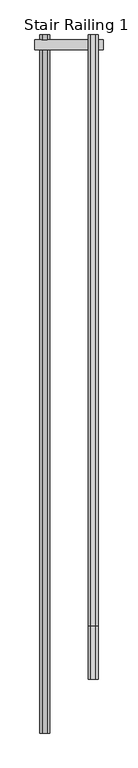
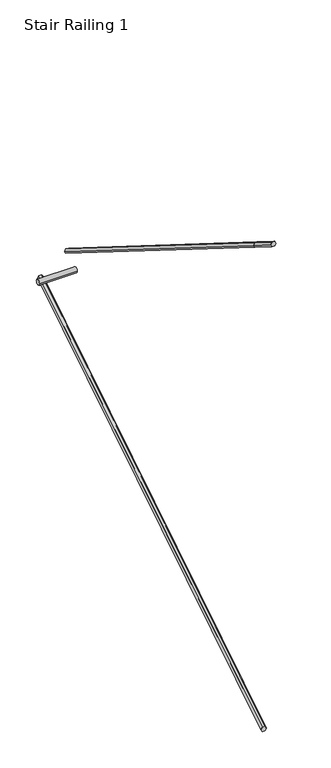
"""IFC4 building model written with IfcOpenShell, lengths in millimetres: railing geometry, Stair Railing 1."""

from ifc_helpers import new_model, si_unit, frame, origin, place, context, project, spatial, circle_curve, faceted_brep, source, transform, mapped, element, save
from ifc_brep_helpers import plane_surface, cylinder_surface, advanced_brep


def stair_railing_1_d4a7e100(model_context):
    return source(origin(), model_context, "Body", "SolidModel", [
        faceted_brep([(-1415.3134126, 56357.2066802, 9028.2888889), (-1428.0134126, 56357.2066802, 9006.2918436), (-1453.4134126, 56357.2066802, 9006.2918436), (-1466.1134126, 56357.2066802, 9028.2888889), (-1453.4134126, 56357.2066802, 9050.2859341), (-1428.0134126, 56357.2066802, 9050.2859341), (-1415.3134126, 52725.0066802, 6753.5777778), (-1428.0134126, 52725.0066802, 6775.574823), (-1453.4134126, 52725.0066802, 6775.574823), (-1466.1134126, 52725.0066802, 6753.5777778), (-1453.4134126, 52725.0066802, 6731.5807325), (-1428.0134126, 52725.0066802, 6731.5807325)], [[[0, 1, 2, 3, 4, 5]], [[6, 7, 8, 9, 10, 11]], [[1, 0, 6, 11]], [[2, 1, 11, 10]], [[3, 2, 10, 9]], [[4, 3, 9, 8]], [[5, 4, 8, 7]], [[0, 5, 7, 6]]]),
        advanced_brep(
        [(-1136.9891104, 56281.0066802, 9028.2888889), (-1136.9891104, 56331.8066802, 9028.2888889), (-1491.5134126, 56281.0066802, 9028.2888889), (-1491.5134126, 56331.8066802, 9028.2888889)],
        [
            (0, 1, circle_curve(frame((-1136.9891104, 56306.4066802, 9028.2888889), z_axis=(1.0, 0.0, 0.0), x_axis=(0.0, -1.0, 0.0)), 25.4)),
            (1, 0, circle_curve(frame((-1136.9891104, 56306.4066802, 9028.2888889), z_axis=(1.0, 0.0, 0.0), x_axis=(0.0, -1.0, 0.0)), 25.4)),
            (2, 3, circle_curve(frame((-1491.5134126, 56306.4066802, 9028.2888889), z_axis=(-1.0, 0.0, 0.0), x_axis=(0.0, -1.0, 0.0)), 25.4)),
            (3, 2, circle_curve(frame((-1491.5134126, 56306.4066802, 9028.2888889), z_axis=(-1.0, 0.0, 0.0), x_axis=(0.0, -1.0, 0.0)), 25.4)),
            (0, 2),
            (3, 1),
        ],
        [
            plane_surface(frame((-1136.9891104, 56281.0066802, 9002.8888889), z_axis=(1.0, 0.0, 0.0), x_axis=(0.0, 1.0, 0.0))),
            plane_surface(frame((-1491.5134126, 56281.0066802, 9002.8888889), z_axis=(-1.0, 0.0, 0.0), x_axis=(0.0, -1.0, 0.0))),
            cylinder_surface(frame((-1491.5134126, 56306.4066802, 9028.2888889), z_axis=(1.0, 0.0, 0.0), x_axis=(0.0, -1.0, 0.0)), 25.4),
        ],
        [
            (0, [[1, 2]]),
            (1, [[3, 4]]),
            (2, [[-1, 5, -4, 6]]),
            (2, [[-2, -6, -3, -5]]),
        ],
    ),
        faceted_brep([(-1213.1891104, 53283.8066802, 11128.0222222), (-1200.4891104, 53283.8066802, 11106.025177), (-1175.0891104, 53283.8066802, 11106.025177), (-1162.3891104, 53283.8066802, 11128.0222222), (-1175.0891104, 53283.8066802, 11150.0192675), (-1200.4891104, 53283.8066802, 11150.0192675), (-1213.1891104, 56357.2066802, 9203.2666667), (-1200.4891104, 56357.2066802, 9225.2637119), (-1175.0891104, 56357.2066802, 9225.2637119), (-1162.3891104, 56357.2066802, 9203.2666667), (-1175.0891104, 56357.2066802, 9181.2696214), (-1200.4891104, 56357.2066802, 9181.2696214)], [[[0, 1, 2, 3, 4, 5]], [[6, 7, 8, 9, 10, 11]], [[1, 0, 6, 11]], [[2, 1, 11, 10]], [[3, 2, 10, 9]], [[4, 3, 9, 8]], [[5, 4, 8, 7]], [[0, 5, 7, 6]]]),
        faceted_brep([(-1213.1891104, 53004.4066802, 11303.0), (-1200.4891104, 53004.4066802, 11281.0029547), (-1175.0891104, 53004.4066802, 11281.0029547), (-1162.3891104, 53004.4066802, 11303.0), (-1175.0891104, 53004.4066802, 11324.9970453), (-1200.4891104, 53004.4066802, 11324.9970453), (-1213.1891104, 53283.8066802, 11128.0222222), (-1200.4891104, 53283.8066802, 11150.0192675), (-1175.0891104, 53283.8066802, 11150.0192675), (-1162.3891104, 53283.8066802, 11128.0222222), (-1175.0891104, 53283.8066802, 11106.025177), (-1200.4891104, 53283.8066802, 11106.025177)], [[[0, 1, 2, 3, 4, 5]], [[6, 7, 8, 9, 10, 11]], [[1, 0, 6, 11]], [[2, 1, 11, 10]], [[3, 2, 10, 9]], [[4, 3, 9, 8]], [[5, 4, 8, 7]], [[0, 5, 7, 6]]]),
    ])


if __name__ == "__main__":
    model = new_model("IFC4")
    model_context = context("Model", 3, world=origin())
    ifc_project = project(units=[si_unit("LENGTHUNIT", "METRE", prefix="MILLI")], contexts=[model_context])
    site = spatial("IfcSite", under=ifc_project)
    building = spatial("IfcBuilding", under=site)
    placement = place(None, origin())
    stair_railing_1_shape = stair_railing_1_d4a7e100(model_context)
    element("IfcRailing", 1, ObjectType="Stair Railing 1", at=placement, inside=building, context=model_context, shape_type="MappedRepresentation", body=[
        mapped(stair_railing_1_shape, transform((0.0, 0.0, 0.0), x_axis=(1.0, 0.0, 0.0), y_axis=(0.0, 1.0, 0.0), z_axis=(0.0, 0.0, 1.0))),
    ])
    save(model, "model.ifc")
